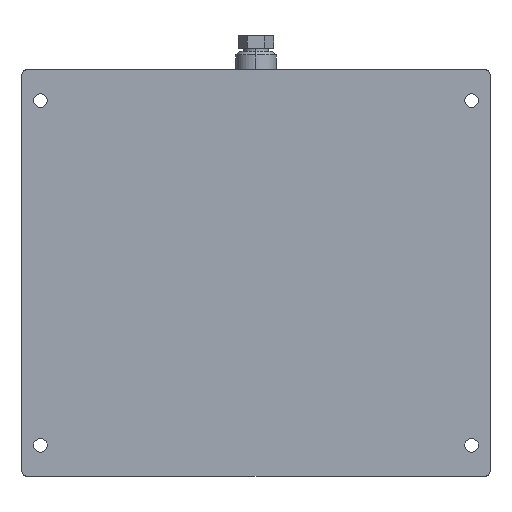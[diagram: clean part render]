
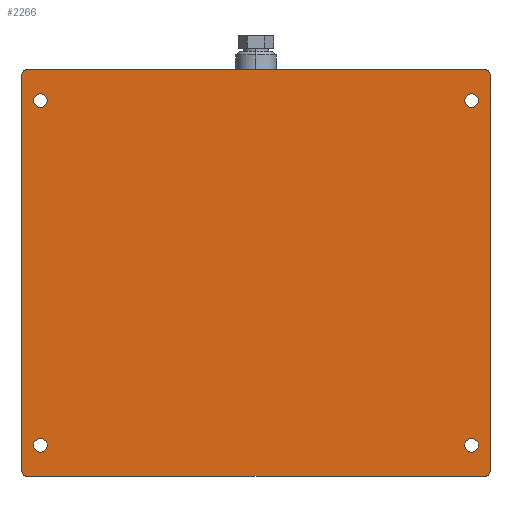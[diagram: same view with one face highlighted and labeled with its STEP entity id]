
A CAD part, front view. The second image highlights one B-rep face of the part: STEP entity #2266.
In plain terms, the highlighted planar face has unit normal (0, -1, 0).
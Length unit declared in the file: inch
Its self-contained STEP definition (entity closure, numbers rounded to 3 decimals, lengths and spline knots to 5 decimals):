
#23 = VERTEX_POINT ( 'NONE', #2362 ) ;
#55 = CIRCLE ( 'NONE', #1744, 0.1875 ) ;
#66 = CARTESIAN_POINT ( 'NONE',  ( -9.3125, -0.1875, 8.25 ) ) ;
#73 = AXIS2_PLACEMENT_3D ( 'NONE', #2839, #2866, #3068 ) ;
#79 = CARTESIAN_POINT ( 'NONE',  ( 9.5, -0.1875, 8.0625 ) ) ;
#103 = DIRECTION ( 'NONE',  ( 0., 0., -1. ) ) ;
#128 = ORIENTED_EDGE ( 'NONE', *, *, #2583, .F. ) ;
#130 = EDGE_CURVE ( 'NONE', #1921, #776, #55, .T. ) ;
#133 = DIRECTION ( 'NONE',  ( 0., 1., 0. ) ) ;
#155 = AXIS2_PLACEMENT_3D ( 'NONE', #1897, #285, #1930 ) ;
#173 = CARTESIAN_POINT ( 'NONE',  ( -8.75, -0.1875, -7.28125 ) ) ;
#176 = CIRCLE ( 'NONE', #155, 0.28125 ) ;
#179 = DIRECTION ( 'NONE',  ( 0., 1., 0. ) ) ;
#215 = CARTESIAN_POINT ( 'NONE',  ( -8.75, -0.1875, 6.71875 ) ) ;
#220 = CARTESIAN_POINT ( 'NONE',  ( -9.3125, -0.1875, 8.25 ) ) ;
#261 = DIRECTION ( 'NONE',  ( 0., 0., -1. ) ) ;
#281 = EDGE_LOOP ( 'NONE', ( #2501, #1058 ) ) ;
#285 = DIRECTION ( 'NONE',  ( 0., 1., 0. ) ) ;
#302 = ORIENTED_EDGE ( 'NONE', *, *, #1276, .T. ) ;
#326 = EDGE_CURVE ( 'NONE', #392, #1437, #1409, .T. ) ;
#332 = ORIENTED_EDGE ( 'NONE', *, *, #2898, .T. ) ;
#334 = DIRECTION ( 'NONE',  ( 0., 1., 0. ) ) ;
#336 = CARTESIAN_POINT ( 'NONE',  ( -9.5, -0.1875, -8.0625 ) ) ;
#385 = FACE_BOUND ( 'NONE', #281, .T. ) ;
#386 = CARTESIAN_POINT ( 'NONE',  ( -8.75, -0.1875, 7. ) ) ;
#392 = VERTEX_POINT ( 'NONE', #1811 ) ;
#475 = CIRCLE ( 'NONE', #581, 0.28125 ) ;
#504 = LINE ( 'NONE', #1540, #2074 ) ;
#581 = AXIS2_PLACEMENT_3D ( 'NONE', #2327, #133, #1066 ) ;
#663 = VERTEX_POINT ( 'NONE', #2251 ) ;
#671 = DIRECTION ( 'NONE',  ( 0., 0., 1. ) ) ;
#705 = ORIENTED_EDGE ( 'NONE', *, *, #2050, .F. ) ;
#706 = DIRECTION ( 'NONE',  ( 0., 0., 1. ) ) ;
#708 = VERTEX_POINT ( 'NONE', #66 ) ;
#717 = FACE_BOUND ( 'NONE', #3058, .T. ) ;
#721 = DIRECTION ( 'NONE',  ( 0., 1., 0. ) ) ;
#732 = ORIENTED_EDGE ( 'NONE', *, *, #1589, .F. ) ;
#756 = EDGE_CURVE ( 'NONE', #2873, #878, #1348, .T. ) ;
#776 = VERTEX_POINT ( 'NONE', #79 ) ;
#777 = EDGE_CURVE ( 'NONE', #1769, #1303, #2232, .T. ) ;
#796 = DIRECTION ( 'NONE',  ( 0., 1., 0. ) ) ;
#878 = VERTEX_POINT ( 'NONE', #336 ) ;
#905 = ORIENTED_EDGE ( 'NONE', *, *, #326, .T. ) ;
#944 = VERTEX_POINT ( 'NONE', #3073 ) ;
#949 = CARTESIAN_POINT ( 'NONE',  ( -9.3125, -0.1875, -8.25 ) ) ;
#965 = EDGE_CURVE ( 'NONE', #1303, #1769, #2684, .T. ) ;
#1006 = FACE_BOUND ( 'NONE', #2527, .T. ) ;
#1011 = DIRECTION ( 'NONE',  ( -1., 0., 0. ) ) ;
#1026 = CARTESIAN_POINT ( 'NONE',  ( -8.75, -0.1875, -6.71875 ) ) ;
#1058 = ORIENTED_EDGE ( 'NONE', *, *, #777, .T. ) ;
#1062 = ORIENTED_EDGE ( 'NONE', *, *, #1651, .T. ) ;
#1066 = DIRECTION ( 'NONE',  ( 0., 0., 1. ) ) ;
#1091 = CARTESIAN_POINT ( 'NONE',  ( 8.75, -0.1875, -7.28125 ) ) ;
#1104 = ORIENTED_EDGE ( 'NONE', *, *, #2943, .F. ) ;
#1105 = DIRECTION ( 'NONE',  ( 0., 0., -1. ) ) ;
#1151 = EDGE_LOOP ( 'NONE', ( #905, #1205 ) ) ;
#1205 = ORIENTED_EDGE ( 'NONE', *, *, #2858, .T. ) ;
#1242 = AXIS2_PLACEMENT_3D ( 'NONE', #1254, #334, #1552 ) ;
#1246 = DIRECTION ( 'NONE',  ( 0., 1., 0. ) ) ;
#1248 = CARTESIAN_POINT ( 'NONE',  ( -9.5, -0.1875, 8.0625 ) ) ;
#1254 = CARTESIAN_POINT ( 'NONE',  ( 9.3125, -0.1875, 8.0625 ) ) ;
#1276 = EDGE_CURVE ( 'NONE', #23, #663, #1658, .T. ) ;
#1303 = VERTEX_POINT ( 'NONE', #2826 ) ;
#1348 = CIRCLE ( 'NONE', #2568, 0.1875 ) ;
#1371 = AXIS2_PLACEMENT_3D ( 'NONE', #1492, #1246, #103 ) ;
#1409 = CIRCLE ( 'NONE', #2258, 0.28125 ) ;
#1437 = VERTEX_POINT ( 'NONE', #215 ) ;
#1447 = VERTEX_POINT ( 'NONE', #2869 ) ;
#1492 = CARTESIAN_POINT ( 'NONE',  ( 9.3125, -0.1875, -8.0625 ) ) ;
#1540 = CARTESIAN_POINT ( 'NONE',  ( 9.5, -0.1875, 8.0625 ) ) ;
#1545 = DIRECTION ( 'NONE',  ( 0., 1., 0. ) ) ;
#1552 = DIRECTION ( 'NONE',  ( 0., 0., 1. ) ) ;
#1558 = DIRECTION ( 'NONE',  ( 0., 0., -1. ) ) ;
#1581 = CIRCLE ( 'NONE', #1371, 0.1875 ) ;
#1589 = EDGE_CURVE ( 'NONE', #2054, #944, #1581, .T. ) ;
#1606 = CARTESIAN_POINT ( 'NONE',  ( 8.75, -0.1875, 7. ) ) ;
#1645 = CIRCLE ( 'NONE', #1951, 0.28125 ) ;
#1649 = CARTESIAN_POINT ( 'NONE',  ( 9.3125, -0.1875, 8.0625 ) ) ;
#1651 = EDGE_CURVE ( 'NONE', #663, #23, #475, .T. ) ;
#1658 = CIRCLE ( 'NONE', #2004, 0.28125 ) ;
#1674 = DIRECTION ( 'NONE',  ( 0., 1., 0. ) ) ;
#1728 = LINE ( 'NONE', #2923, #2469 ) ;
#1744 = AXIS2_PLACEMENT_3D ( 'NONE', #1649, #1674, #2661 ) ;
#1769 = VERTEX_POINT ( 'NONE', #1091 ) ;
#1811 = CARTESIAN_POINT ( 'NONE',  ( -8.75, -0.1875, 7.28125 ) ) ;
#1851 = CIRCLE ( 'NONE', #2654, 0.28125 ) ;
#1886 = VECTOR ( 'NONE', #2846, 39.37008 ) ;
#1897 = CARTESIAN_POINT ( 'NONE',  ( -8.75, -0.1875, -7. ) ) ;
#1921 = VERTEX_POINT ( 'NONE', #2968 ) ;
#1930 = DIRECTION ( 'NONE',  ( 0., 0., -1. ) ) ;
#1938 = LINE ( 'NONE', #1248, #3065 ) ;
#1951 = AXIS2_PLACEMENT_3D ( 'NONE', #2192, #721, #261 ) ;
#1954 = CARTESIAN_POINT ( 'NONE',  ( -9.3125, -0.1875, -8.0625 ) ) ;
#2004 = AXIS2_PLACEMENT_3D ( 'NONE', #1606, #2585, #2600 ) ;
#2041 = EDGE_CURVE ( 'NONE', #2380, #3011, #1851, .T. ) ;
#2050 = EDGE_CURVE ( 'NONE', #1447, #708, #2945, .T. ) ;
#2054 = VERTEX_POINT ( 'NONE', #2089 ) ;
#2061 = AXIS2_PLACEMENT_3D ( 'NONE', #2402, #2146, #706 ) ;
#2074 = VECTOR ( 'NONE', #1105, 39.37008 ) ;
#2089 = CARTESIAN_POINT ( 'NONE',  ( 9.5, -0.1875, -8.0625 ) ) ;
#2146 = DIRECTION ( 'NONE',  ( 0., 1., 0. ) ) ;
#2170 = ORIENTED_EDGE ( 'NONE', *, *, #2041, .T. ) ;
#2192 = CARTESIAN_POINT ( 'NONE',  ( -8.75, -0.1875, 7. ) ) ;
#2210 = DIRECTION ( 'NONE',  ( 0., 1., 0. ) ) ;
#2223 = DIRECTION ( 'NONE',  ( 0., 0., -1. ) ) ;
#2232 = CIRCLE ( 'NONE', #2628, 0.28125 ) ;
#2244 = FACE_OUTER_BOUND ( 'NONE', #2448, .T. ) ;
#2251 = CARTESIAN_POINT ( 'NONE',  ( 8.75, -0.1875, 7.28125 ) ) ;
#2258 = AXIS2_PLACEMENT_3D ( 'NONE', #386, #1545, #1558 ) ;
#2266 = ADVANCED_FACE ( 'NONE', ( #2970, #1006, #385, #717, #2244 ), #2721, .F. ) ;
#2327 = CARTESIAN_POINT ( 'NONE',  ( 8.75, -0.1875, 7. ) ) ;
#2338 = ORIENTED_EDGE ( 'NONE', *, *, #130, .F. ) ;
#2362 = CARTESIAN_POINT ( 'NONE',  ( 8.75, -0.1875, 6.71875 ) ) ;
#2380 = VERTEX_POINT ( 'NONE', #173 ) ;
#2402 = CARTESIAN_POINT ( 'NONE',  ( 8.75, -0.1875, -7. ) ) ;
#2427 = EDGE_CURVE ( 'NONE', #776, #2054, #504, .T. ) ;
#2448 = EDGE_LOOP ( 'NONE', ( #2338, #128, #705, #1104, #2997, #2948, #732, #2710 ) ) ;
#2469 = VECTOR ( 'NONE', #1011, 39.37008 ) ;
#2471 = DIRECTION ( 'NONE',  ( 0., 0., 1. ) ) ;
#2501 = ORIENTED_EDGE ( 'NONE', *, *, #965, .T. ) ;
#2527 = EDGE_LOOP ( 'NONE', ( #332, #2170 ) ) ;
#2553 = CARTESIAN_POINT ( 'NONE',  ( -8.75, -0.1875, -7. ) ) ;
#2565 = LINE ( 'NONE', #220, #1886 ) ;
#2568 = AXIS2_PLACEMENT_3D ( 'NONE', #1954, #796, #2223 ) ;
#2583 = EDGE_CURVE ( 'NONE', #708, #1921, #2565, .T. ) ;
#2585 = DIRECTION ( 'NONE',  ( 0., 1., 0. ) ) ;
#2600 = DIRECTION ( 'NONE',  ( 0., 0., 1. ) ) ;
#2622 = DIRECTION ( 'NONE',  ( 0., 0., -1. ) ) ;
#2628 = AXIS2_PLACEMENT_3D ( 'NONE', #2941, #2210, #2471 ) ;
#2650 = EDGE_CURVE ( 'NONE', #944, #2873, #1728, .T. ) ;
#2654 = AXIS2_PLACEMENT_3D ( 'NONE', #2553, #179, #2622 ) ;
#2661 = DIRECTION ( 'NONE',  ( 0., 0., 1. ) ) ;
#2684 = CIRCLE ( 'NONE', #2061, 0.28125 ) ;
#2710 = ORIENTED_EDGE ( 'NONE', *, *, #2427, .F. ) ;
#2721 = PLANE ( 'NONE',  #1242 ) ;
#2826 = CARTESIAN_POINT ( 'NONE',  ( 8.75, -0.1875, -6.71875 ) ) ;
#2839 = CARTESIAN_POINT ( 'NONE',  ( -9.3125, -0.1875, 8.0625 ) ) ;
#2846 = DIRECTION ( 'NONE',  ( 1., 0., 0. ) ) ;
#2858 = EDGE_CURVE ( 'NONE', #1437, #392, #1645, .T. ) ;
#2866 = DIRECTION ( 'NONE',  ( 0., 1., 0. ) ) ;
#2869 = CARTESIAN_POINT ( 'NONE',  ( -9.5, -0.1875, 8.0625 ) ) ;
#2873 = VERTEX_POINT ( 'NONE', #949 ) ;
#2898 = EDGE_CURVE ( 'NONE', #3011, #2380, #176, .T. ) ;
#2923 = CARTESIAN_POINT ( 'NONE',  ( -9.3125, -0.1875, -8.25 ) ) ;
#2941 = CARTESIAN_POINT ( 'NONE',  ( 8.75, -0.1875, -7. ) ) ;
#2943 = EDGE_CURVE ( 'NONE', #878, #1447, #1938, .T. ) ;
#2945 = CIRCLE ( 'NONE', #73, 0.1875 ) ;
#2948 = ORIENTED_EDGE ( 'NONE', *, *, #2650, .F. ) ;
#2968 = CARTESIAN_POINT ( 'NONE',  ( 9.3125, -0.1875, 8.25 ) ) ;
#2970 = FACE_BOUND ( 'NONE', #1151, .T. ) ;
#2997 = ORIENTED_EDGE ( 'NONE', *, *, #756, .F. ) ;
#3011 = VERTEX_POINT ( 'NONE', #1026 ) ;
#3058 = EDGE_LOOP ( 'NONE', ( #1062, #302 ) ) ;
#3065 = VECTOR ( 'NONE', #671, 39.37008 ) ;
#3068 = DIRECTION ( 'NONE',  ( 0., 0., -1. ) ) ;
#3073 = CARTESIAN_POINT ( 'NONE',  ( 9.3125, -0.1875, -8.25 ) ) ;
